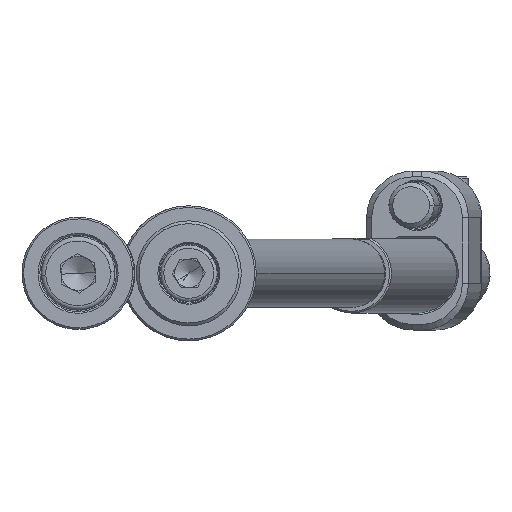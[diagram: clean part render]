
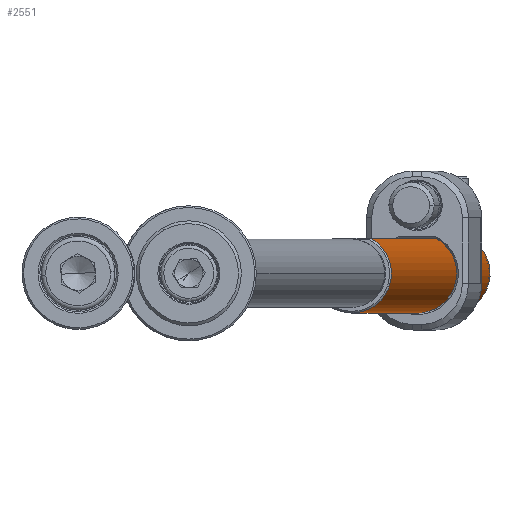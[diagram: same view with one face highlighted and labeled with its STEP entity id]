
A CAD part, front view. The second image highlights one B-rep face of the part: STEP entity #2551.
In plain terms, the highlighted cylindrical face has radius 7 mm (diameter 14 mm), a partial arc.
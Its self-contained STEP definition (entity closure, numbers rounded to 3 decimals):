
#351 = CARTESIAN_POINT ( 'NONE',  ( -7., 0., 200. ) ) ;
#454 = DIRECTION ( 'NONE',  ( 0., 0., -1. ) ) ;
#660 = CARTESIAN_POINT ( 'NONE',  ( 5.915, -3.744, 11.42 ) ) ;
#803 = CARTESIAN_POINT ( 'NONE',  ( 6.1, -3.434, 12.052 ) ) ;
#836 = DIRECTION ( 'NONE',  ( 1., 0., 0. ) ) ;
#1085 = CARTESIAN_POINT ( 'NONE',  ( 6.2, -3.25, 7.5 ) ) ;
#1124 = CARTESIAN_POINT ( 'NONE',  ( 6.1, -3.434, 7.948 ) ) ;
#1178 = VERTEX_POINT ( 'NONE', #1225 ) ;
#1225 = CARTESIAN_POINT ( 'NONE',  ( 6.2, -3.25, 12.5 ) ) ;
#1275 = CARTESIAN_POINT ( 'NONE',  ( 6.164, -3.317, 12.354 ) ) ;
#1422 = VERTEX_POINT ( 'NONE', #3056 ) ;
#1683 = B_SPLINE_CURVE_WITH_KNOTS ( 'NONE', 3,
 ( #803, #5219, #9646, #660, #12980, #7312, #7387, #3910, #12767, #8390, #12830, #11734, #1819, #14082 ),
 .UNSPECIFIED., .F., .F.,
 ( 4, 2, 2, 2, 2, 2, 4 ),
 ( 0., 0.001, 0.001, 0.003, 0.004, 0.004, 0.005 ),
 .UNSPECIFIED. ) ;
#1819 = CARTESIAN_POINT ( 'NONE',  ( 6.049, -3.524, 8.099 ) ) ;
#1885 = DIRECTION ( 'NONE',  ( -1., 0., 0. ) ) ;
#2115 = ORIENTED_EDGE ( 'NONE', *, *, #9295, .T. ) ;
#2144 = CARTESIAN_POINT ( 'NONE',  ( 0., 0., 199.7 ) ) ;
#2190 = CARTESIAN_POINT ( 'NONE',  ( 6.131, -3.379, 7.796 ) ) ;
#2208 = VECTOR ( 'NONE', #13234, 1000. ) ;
#2551 = ADVANCED_FACE ( 'NONE', ( #7246 ), #7329, .T. ) ;
#2891 = EDGE_CURVE ( 'NONE', #4767, #1422, #10941, .T. ) ;
#3056 = CARTESIAN_POINT ( 'NONE',  ( 6.2, -3.25, 0.3 ) ) ;
#3224 = CARTESIAN_POINT ( 'NONE',  ( 6.2, -3.25, 200. ) ) ;
#3910 = CARTESIAN_POINT ( 'NONE',  ( 5.744, -4., 9.635 ) ) ;
#3940 = B_SPLINE_CURVE_WITH_KNOTS ( 'NONE', 3,
 ( #13293, #4593, #1275, #5755 ),
 .UNSPECIFIED., .F., .F.,
 ( 4, 4 ),
 ( 0., 0. ),
 .UNSPECIFIED. ) ;
#4104 = AXIS2_PLACEMENT_3D ( 'NONE', #2144, #6552, #5621 ) ;
#4290 = ORIENTED_EDGE ( 'NONE', *, *, #5620, .T. ) ;
#4458 = ORIENTED_EDGE ( 'NONE', *, *, #9861, .F. ) ;
#4593 = CARTESIAN_POINT ( 'NONE',  ( 6.131, -3.379, 12.204 ) ) ;
#4684 = AXIS2_PLACEMENT_3D ( 'NONE', #7342, #8355, #836 ) ;
#4731 = VECTOR ( 'NONE', #454, 1000. ) ;
#4767 = VERTEX_POINT ( 'NONE', #9786 ) ;
#5100 = CARTESIAN_POINT ( 'NONE',  ( 6.164, -3.317, 7.646 ) ) ;
#5136 = CARTESIAN_POINT ( 'NONE',  ( -7., 0., 199.7 ) ) ;
#5219 = CARTESIAN_POINT ( 'NONE',  ( 6.049, -3.524, 11.901 ) ) ;
#5378 = CARTESIAN_POINT ( 'NONE',  ( 6.2, -3.25, 7.5 ) ) ;
#5620 = EDGE_CURVE ( 'NONE', #12320, #4767, #7081, .T. ) ;
#5621 = DIRECTION ( 'NONE',  ( 1., 0., 0. ) ) ;
#5755 = CARTESIAN_POINT ( 'NONE',  ( 6.2, -3.25, 12.5 ) ) ;
#5813 = VERTEX_POINT ( 'NONE', #11985 ) ;
#6552 = DIRECTION ( 'NONE',  ( 0., 0., -1. ) ) ;
#7005 = EDGE_CURVE ( 'NONE', #8555, #1422, #10901, .T. ) ;
#7081 = LINE ( 'NONE', #351, #10768 ) ;
#7239 = EDGE_CURVE ( 'NONE', #10214, #1178, #7333, .T. ) ;
#7246 = FACE_OUTER_BOUND ( 'NONE', #8982, .T. ) ;
#7312 = CARTESIAN_POINT ( 'NONE',  ( 5.781, -3.95, 10.729 ) ) ;
#7329 = CYLINDRICAL_SURFACE ( 'NONE', #9354, 7. ) ;
#7333 = LINE ( 'NONE', #12785, #4731 ) ;
#7339 = CARTESIAN_POINT ( 'NONE',  ( 6.2, -3.25, 199.7 ) ) ;
#7342 = CARTESIAN_POINT ( 'NONE',  ( 0., 0., 0.3 ) ) ;
#7387 = CARTESIAN_POINT ( 'NONE',  ( 5.745, -4., 10.372 ) ) ;
#7741 = B_SPLINE_CURVE_WITH_KNOTS ( 'NONE', 3,
 ( #5378, #5100, #2190, #1124 ),
 .UNSPECIFIED., .F., .F.,
 ( 4, 4 ),
 ( 0., 0. ),
 .UNSPECIFIED. ) ;
#7947 = ORIENTED_EDGE ( 'NONE', *, *, #7239, .F. ) ;
#8355 = DIRECTION ( 'NONE',  ( 0., 0., 1. ) ) ;
#8390 = CARTESIAN_POINT ( 'NONE',  ( 5.876, -3.805, 8.752 ) ) ;
#8555 = VERTEX_POINT ( 'NONE', #1085 ) ;
#8706 = ORIENTED_EDGE ( 'NONE', *, *, #2891, .T. ) ;
#8982 = EDGE_LOOP ( 'NONE', ( #10807, #4290, #8706, #11895, #9742, #4458, #2115, #7947 ) ) ;
#9269 = DIRECTION ( 'NONE',  ( 0., 0., -1. ) ) ;
#9295 = EDGE_CURVE ( 'NONE', #5813, #1178, #3940, .T. ) ;
#9354 = AXIS2_PLACEMENT_3D ( 'NONE', #11748, #11822, #1885 ) ;
#9646 = CARTESIAN_POINT ( 'NONE',  ( 6.002, -3.604, 11.745 ) ) ;
#9742 = ORIENTED_EDGE ( 'NONE', *, *, #9756, .T. ) ;
#9756 = EDGE_CURVE ( 'NONE', #8555, #11692, #7741, .T. ) ;
#9786 = CARTESIAN_POINT ( 'NONE',  ( -7., 0., 0.3 ) ) ;
#9861 = EDGE_CURVE ( 'NONE', #5813, #11692, #1683, .T. ) ;
#10214 = VERTEX_POINT ( 'NONE', #7339 ) ;
#10361 = CIRCLE ( 'NONE', #4104, 7. ) ;
#10395 = EDGE_CURVE ( 'NONE', #10214, #12320, #10361, .T. ) ;
#10768 = VECTOR ( 'NONE', #9269, 1000. ) ;
#10807 = ORIENTED_EDGE ( 'NONE', *, *, #10395, .T. ) ;
#10901 = LINE ( 'NONE', #3224, #2208 ) ;
#10941 = CIRCLE ( 'NONE', #4684, 7. ) ;
#11692 = VERTEX_POINT ( 'NONE', #14350 ) ;
#11734 = CARTESIAN_POINT ( 'NONE',  ( 6.001, -3.604, 8.256 ) ) ;
#11748 = CARTESIAN_POINT ( 'NONE',  ( 0., 0., 200. ) ) ;
#11822 = DIRECTION ( 'NONE',  ( 0., 0., -1. ) ) ;
#11895 = ORIENTED_EDGE ( 'NONE', *, *, #7005, .F. ) ;
#11985 = CARTESIAN_POINT ( 'NONE',  ( 6.1, -3.434, 12.052 ) ) ;
#12320 = VERTEX_POINT ( 'NONE', #5136 ) ;
#12767 = CARTESIAN_POINT ( 'NONE',  ( 5.78, -3.95, 9.275 ) ) ;
#12785 = CARTESIAN_POINT ( 'NONE',  ( 6.2, -3.25, 200. ) ) ;
#12830 = CARTESIAN_POINT ( 'NONE',  ( 5.915, -3.744, 8.582 ) ) ;
#12980 = CARTESIAN_POINT ( 'NONE',  ( 5.876, -3.804, 11.25 ) ) ;
#13234 = DIRECTION ( 'NONE',  ( 0., 0., -1. ) ) ;
#13293 = CARTESIAN_POINT ( 'NONE',  ( 6.1, -3.434, 12.052 ) ) ;
#14082 = CARTESIAN_POINT ( 'NONE',  ( 6.1, -3.434, 7.948 ) ) ;
#14350 = CARTESIAN_POINT ( 'NONE',  ( 6.1, -3.434, 7.948 ) ) ;
